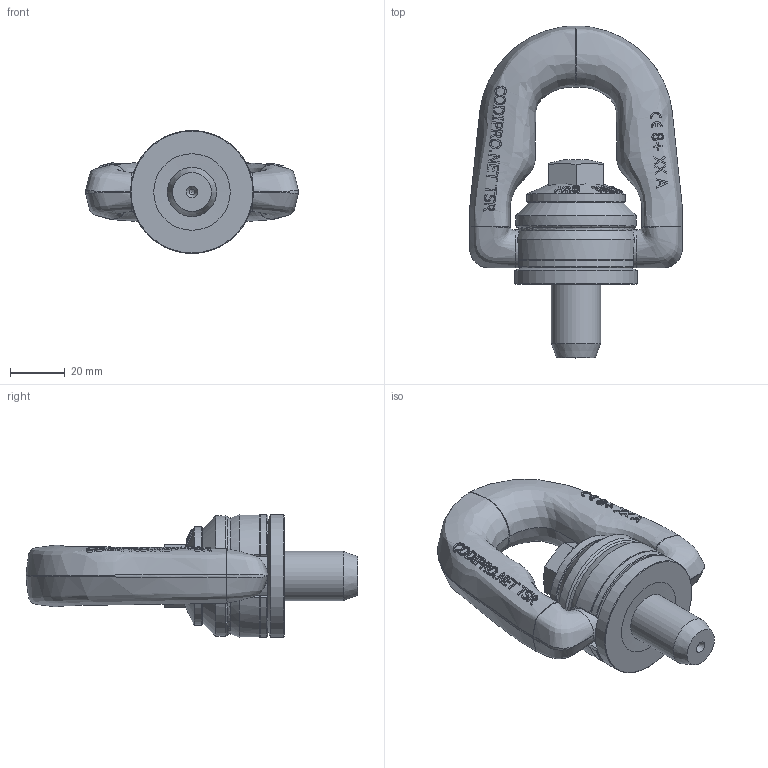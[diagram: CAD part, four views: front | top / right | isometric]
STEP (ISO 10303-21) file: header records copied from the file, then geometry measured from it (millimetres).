
FILE_DESCRIPTION(/* description */ (''),/* implementation_level */ '2;1');
FILE_NAME(/* name */ 'W:\CODIPRO\DOCUMENTS\Plans A NE PAS DIFFUSER !!!\Inventor\Standard Inventor\Produit Fini Inventor\DSP\Fichiers 3D\DSP M18.stp',/* time_stamp */ '2017-10-06T08:45:44+02:00',/* author */ ('rklenes'),/* organization */ (''),/* preprocessor_version */ 'ST-DEVELOPER v16.5',/* originating_system */ 'Autodesk Inventor 2017',/* authorisation */ '');
FILE_SCHEMA (('AUTOMOTIVE_DESIGN { 1 0 10303 214 3 1 1 }'));
Length unit declared in the file: millimetre
Products named in the file (5): DSP M18; DRB_B2B; TSM_AO2C; DRE_D2M18A; DRA_M18X57
Assembly tree (4 placements, depth 2):
  DSP M18
    DRB_B2B
    TSM_AO2C
    DRE_D2M18A
    DRA_M18X57
Bounding box: 77.89 x 121.5 x 45 mm (x, y, z)
Volume: 117220.7 mm3; surface area: 33797.7 mm2
Topology: 4 solids, 4 shells, 536 faces, 1403 edges, 906 vertices
Faces by surface type: plane 255, bspline 203, cone 35, cylinder 29, torus 11, sphere 3
Full cylindrical faces by diameter (mm): 2 x1, 14 x2, 18 x4, 18.2 x1, 22.6 x2, 23 x2, 32 x1, 36 x1, 44 x1, 45 x1
Entity records: 26632 total; most frequent: CARTESIAN_POINT 15220, ORIENTED_EDGE 2698, DIRECTION 1632, EDGE_CURVE 1349, VERTEX_POINT 900, EDGE_LOOP 619, AXIS2_PLACEMENT_3D 574, B_SPLINE_CURVE_WITH_KNOTS 551
